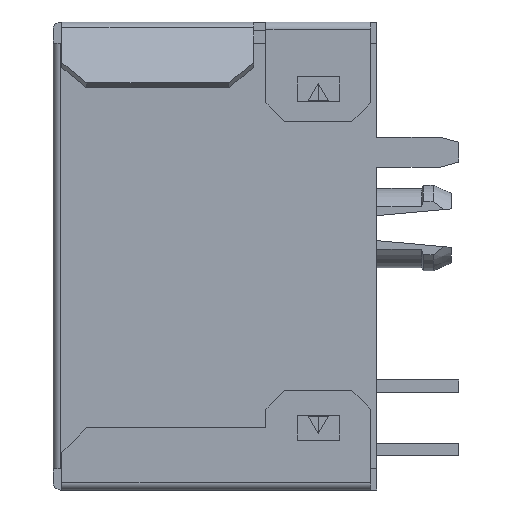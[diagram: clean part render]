
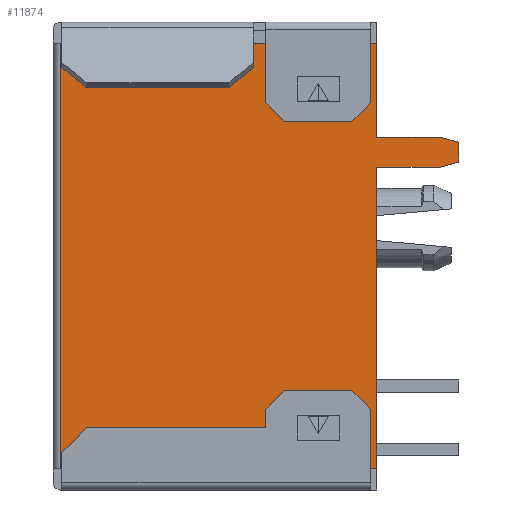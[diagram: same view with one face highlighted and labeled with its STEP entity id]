
A CAD part, left-side view. The second image highlights one B-rep face of the part: STEP entity #11874.
In plain terms, the highlighted planar face has unit normal (-1, 0, 0).
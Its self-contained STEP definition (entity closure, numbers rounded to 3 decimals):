
#2323=DIRECTION('',(0.,0.,1.));
#2324=VECTOR('',#2323,12.12);
#2325=CARTESIAN_POINT('',(-7.95,0.,-9.67));
#2326=LINE('',#2325,#2324);
#2339=DIRECTION('',(0.,0.,1.));
#2340=VECTOR('',#2339,3.78);
#2341=CARTESIAN_POINT('',(-7.95,0.,3.65));
#2342=LINE('',#2341,#2340);
#3366=DIRECTION('',(0.,0.,1.));
#3367=VECTOR('',#3366,17.1);
#3368=CARTESIAN_POINT('',(-7.95,12.7,-9.67));
#3369=LINE('',#3368,#3367);
#3447=DIRECTION('',(0.,0.966,0.258));
#3448=VECTOR('',#3447,0.776);
#3449=CARTESIAN_POINT('',(-7.95,-3.3,3.45));
#3450=LINE('',#3449,#3448);
#3451=DIRECTION('',(0.,-0.966,0.258));
#3452=VECTOR('',#3451,0.776);
#3453=CARTESIAN_POINT('',(-7.95,-2.55,2.45));
#3454=LINE('',#3453,#3452);
#3455=DIRECTION('',(0.,1.,0.));
#3456=VECTOR('',#3455,0.25);
#3457=CARTESIAN_POINT('',(-7.95,0.,-9.67));
#3458=LINE('',#3457,#3456);
#3459=DIRECTION('',(0.,0.,-1.));
#3460=VECTOR('',#3459,2.4);
#3461=CARTESIAN_POINT('',(-7.95,0.25,-7.27));
#3462=LINE('',#3461,#3460);
#3463=DIRECTION('',(0.,-0.707,-0.707));
#3464=VECTOR('',#3463,1.061);
#3465=CARTESIAN_POINT('',(-7.95,1.,-6.52));
#3466=LINE('',#3465,#3464);
#3467=DIRECTION('',(0.,-1.,0.));
#3468=VECTOR('',#3467,2.7);
#3469=CARTESIAN_POINT('',(-7.95,3.7,-6.52));
#3470=LINE('',#3469,#3468);
#3471=DIRECTION('',(0.,-0.707,0.707));
#3472=VECTOR('',#3471,1.061);
#3473=CARTESIAN_POINT('',(-7.95,4.45,-7.27));
#3474=LINE('',#3473,#3472);
#3475=DIRECTION('',(0.,0.,1.));
#3476=VECTOR('',#3475,0.75);
#3477=CARTESIAN_POINT('',(-7.95,4.45,-8.02));
#3478=LINE('',#3477,#3476);
#3479=DIRECTION('',(0.,-1.,0.));
#3480=VECTOR('',#3479,7.2);
#3481=CARTESIAN_POINT('',(-7.95,11.65,-8.02));
#3482=LINE('',#3481,#3480);
#3483=DIRECTION('',(0.,-0.707,0.707));
#3484=VECTOR('',#3483,1.414);
#3485=CARTESIAN_POINT('',(-7.95,12.65,-9.02));
#3486=LINE('',#3485,#3484);
#3487=DIRECTION('',(0.,0.,1.));
#3488=VECTOR('',#3487,0.65);
#3489=CARTESIAN_POINT('',(-7.95,12.65,-9.67));
#3490=LINE('',#3489,#3488);
#3491=DIRECTION('',(0.,1.,0.));
#3492=VECTOR('',#3491,0.05);
#3493=CARTESIAN_POINT('',(-7.95,12.65,-9.67));
#3494=LINE('',#3493,#3492);
#3495=DIRECTION('',(0.,-1.,0.));
#3496=VECTOR('',#3495,8.25);
#3497=CARTESIAN_POINT('',(-7.95,12.7,7.43));
#3498=LINE('',#3497,#3496);
#3499=DIRECTION('',(0.,0.,1.));
#3500=VECTOR('',#3499,2.4);
#3501=CARTESIAN_POINT('',(-7.95,4.45,5.03));
#3502=LINE('',#3501,#3500);
#3503=DIRECTION('',(0.,0.707,0.707));
#3504=VECTOR('',#3503,1.061);
#3505=CARTESIAN_POINT('',(-7.95,3.7,4.28));
#3506=LINE('',#3505,#3504);
#3507=DIRECTION('',(0.,1.,0.));
#3508=VECTOR('',#3507,2.7);
#3509=CARTESIAN_POINT('',(-7.95,1.,4.28));
#3510=LINE('',#3509,#3508);
#3511=DIRECTION('',(0.,0.707,-0.707));
#3512=VECTOR('',#3511,1.061);
#3513=CARTESIAN_POINT('',(-7.95,0.25,5.03));
#3514=LINE('',#3513,#3512);
#3515=DIRECTION('',(0.,0.,-1.));
#3516=VECTOR('',#3515,2.4);
#3517=CARTESIAN_POINT('',(-7.95,0.25,7.43));
#3518=LINE('',#3517,#3516);
#3519=DIRECTION('',(0.,1.,0.));
#3520=VECTOR('',#3519,0.25);
#3521=CARTESIAN_POINT('',(-7.95,0.,7.43));
#3522=LINE('',#3521,#3520);
#3523=DIRECTION('',(0.,-1.,0.));
#3524=VECTOR('',#3523,2.55);
#3525=CARTESIAN_POINT('',(-7.95,0.,3.65));
#3526=LINE('',#3525,#3524);
#3839=DIRECTION('',(0.,-1.,0.));
#3840=VECTOR('',#3839,2.55);
#3841=CARTESIAN_POINT('',(-7.95,0.,2.45));
#3842=LINE('',#3841,#3840);
#3871=DIRECTION('',(0.,0.,-1.));
#3872=VECTOR('',#3871,0.8);
#3873=CARTESIAN_POINT('',(-7.95,-3.3,3.45));
#3874=LINE('',#3873,#3872);
#5993=CARTESIAN_POINT('',(-7.95,0.25,5.03));
#5994=CARTESIAN_POINT('',(-7.95,1.,4.28));
#5995=VERTEX_POINT('',#5993);
#5996=VERTEX_POINT('',#5994);
#5997=CARTESIAN_POINT('',(-7.95,3.7,4.28));
#5998=VERTEX_POINT('',#5997);
#5999=CARTESIAN_POINT('',(-7.95,4.45,5.03));
#6000=VERTEX_POINT('',#5999);
#6001=CARTESIAN_POINT('',(-7.95,12.65,-9.02));
#6002=CARTESIAN_POINT('',(-7.95,11.65,-8.02));
#6003=VERTEX_POINT('',#6001);
#6004=VERTEX_POINT('',#6002);
#6005=CARTESIAN_POINT('',(-7.95,4.45,-8.02));
#6006=VERTEX_POINT('',#6005);
#6007=CARTESIAN_POINT('',(-7.95,4.45,-7.27));
#6008=VERTEX_POINT('',#6007);
#6009=CARTESIAN_POINT('',(-7.95,3.7,-6.52));
#6010=VERTEX_POINT('',#6009);
#6011=CARTESIAN_POINT('',(-7.95,1.,-6.52));
#6012=VERTEX_POINT('',#6011);
#6013=CARTESIAN_POINT('',(-7.95,0.25,-7.27));
#6014=VERTEX_POINT('',#6013);
#6105=CARTESIAN_POINT('',(-7.95,0.,7.43));
#6107=VERTEX_POINT('',#6105);
#6113=CARTESIAN_POINT('',(-7.95,0.,-9.67));
#6115=VERTEX_POINT('',#6113);
#6125=CARTESIAN_POINT('',(-7.95,0.25,7.43));
#6126=VERTEX_POINT('',#6125);
#6127=CARTESIAN_POINT('',(-7.95,0.25,-9.67));
#6128=VERTEX_POINT('',#6127);
#6129=CARTESIAN_POINT('',(-7.95,4.45,7.43));
#6131=VERTEX_POINT('',#6129);
#6139=CARTESIAN_POINT('',(-7.95,12.65,-9.67));
#6140=VERTEX_POINT('',#6139);
#6173=CARTESIAN_POINT('',(-7.95,0.,2.45));
#6175=VERTEX_POINT('',#6173);
#6179=CARTESIAN_POINT('',(-7.95,0.,3.65));
#6180=VERTEX_POINT('',#6179);
#6301=CARTESIAN_POINT('',(-7.95,12.7,7.43));
#6302=VERTEX_POINT('',#6301);
#6303=CARTESIAN_POINT('',(-7.95,12.7,-9.67));
#6304=VERTEX_POINT('',#6303);
#6597=CARTESIAN_POINT('',(-7.95,-3.3,3.45));
#6598=CARTESIAN_POINT('',(-7.95,-2.55,3.65));
#6599=VERTEX_POINT('',#6597);
#6600=VERTEX_POINT('',#6598);
#6609=CARTESIAN_POINT('',(-7.95,-2.55,2.45));
#6610=VERTEX_POINT('',#6609);
#6611=CARTESIAN_POINT('',(-7.95,-3.3,2.65));
#6612=VERTEX_POINT('',#6611);
#11827=CARTESIAN_POINT('',(-7.95,13.,8.28));
#11828=DIRECTION('',(-1.,0.,0.));
#11829=DIRECTION('',(0.,0.,1.));
#11830=AXIS2_PLACEMENT_3D('',#11827,#11828,#11829);
#11831=PLANE('',#11830);
#11833=ORIENTED_EDGE('',*,*,#11832,.F.);
#11835=ORIENTED_EDGE('',*,*,#11834,.T.);
#11837=ORIENTED_EDGE('',*,*,#11836,.F.);
#11839=ORIENTED_EDGE('',*,*,#11838,.F.);
#11840=ORIENTED_EDGE('',*,*,#10279,.F.);
#11841=ORIENTED_EDGE('',*,*,#11725,.T.);
#11842=ORIENTED_EDGE('',*,*,#9668,.F.);
#11844=ORIENTED_EDGE('',*,*,#11843,.F.);
#11846=ORIENTED_EDGE('',*,*,#11845,.F.);
#11848=ORIENTED_EDGE('',*,*,#11847,.F.);
#11850=ORIENTED_EDGE('',*,*,#11849,.F.);
#11852=ORIENTED_EDGE('',*,*,#11851,.F.);
#11854=ORIENTED_EDGE('',*,*,#11853,.F.);
#11855=ORIENTED_EDGE('',*,*,#11560,.F.);
#11856=ORIENTED_EDGE('',*,*,#11722,.T.);
#11857=ORIENTED_EDGE('',*,*,#11742,.T.);
#11858=ORIENTED_EDGE('',*,*,#11753,.T.);
#11860=ORIENTED_EDGE('',*,*,#11859,.F.);
#11862=ORIENTED_EDGE('',*,*,#11861,.F.);
#11864=ORIENTED_EDGE('',*,*,#11863,.F.);
#11866=ORIENTED_EDGE('',*,*,#11865,.F.);
#11867=ORIENTED_EDGE('',*,*,#9586,.F.);
#11868=ORIENTED_EDGE('',*,*,#11759,.F.);
#11869=ORIENTED_EDGE('',*,*,#10287,.F.);
#11871=ORIENTED_EDGE('',*,*,#11870,.T.);
#11872=EDGE_LOOP('',(#11833,#11835,#11837,#11839,#11840,#11841,#11842,#11844,
#11846,#11848,#11850,#11852,#11854,#11855,#11856,#11857,#11858,#11860,#11862,
#11864,#11866,#11867,#11868,#11869,#11871));
#11873=FACE_OUTER_BOUND('',#11872,.F.);
#11874=ADVANCED_FACE('',(#11873),#11831,.T.);
#9586=EDGE_CURVE('',#6126,#5995,#3518,.T.);
#9668=EDGE_CURVE('',#6014,#6128,#3462,.T.);
#10279=EDGE_CURVE('',#6115,#6175,#2326,.T.);
#10287=EDGE_CURVE('',#6180,#6107,#2342,.T.);
#11560=EDGE_CURVE('',#6140,#6003,#3490,.T.);
#11722=EDGE_CURVE('',#6140,#6304,#3494,.T.);
#11725=EDGE_CURVE('',#6115,#6128,#3458,.T.);
#11742=EDGE_CURVE('',#6304,#6302,#3369,.T.);
#11753=EDGE_CURVE('',#6302,#6131,#3498,.T.);
#11759=EDGE_CURVE('',#6107,#6126,#3522,.T.);
#11832=EDGE_CURVE('',#6599,#6600,#3450,.T.);
#11834=EDGE_CURVE('',#6599,#6612,#3874,.T.);
#11836=EDGE_CURVE('',#6610,#6612,#3454,.T.);
#11838=EDGE_CURVE('',#6175,#6610,#3842,.T.);
#11843=EDGE_CURVE('',#6012,#6014,#3466,.T.);
#11845=EDGE_CURVE('',#6010,#6012,#3470,.T.);
#11847=EDGE_CURVE('',#6008,#6010,#3474,.T.);
#11849=EDGE_CURVE('',#6006,#6008,#3478,.T.);
#11851=EDGE_CURVE('',#6004,#6006,#3482,.T.);
#11853=EDGE_CURVE('',#6003,#6004,#3486,.T.);
#11859=EDGE_CURVE('',#6000,#6131,#3502,.T.);
#11861=EDGE_CURVE('',#5998,#6000,#3506,.T.);
#11863=EDGE_CURVE('',#5996,#5998,#3510,.T.);
#11865=EDGE_CURVE('',#5995,#5996,#3514,.T.);
#11870=EDGE_CURVE('',#6180,#6600,#3526,.T.);
